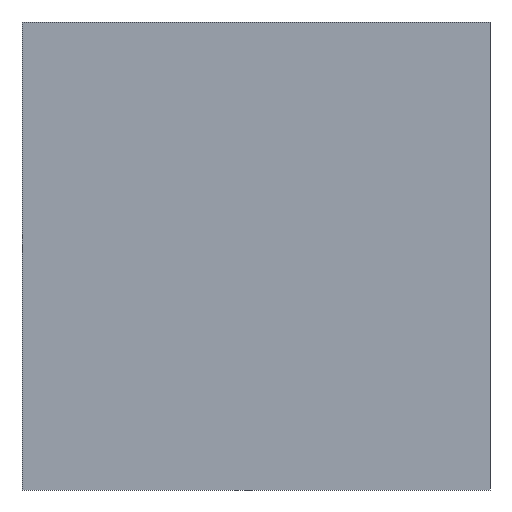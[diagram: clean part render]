
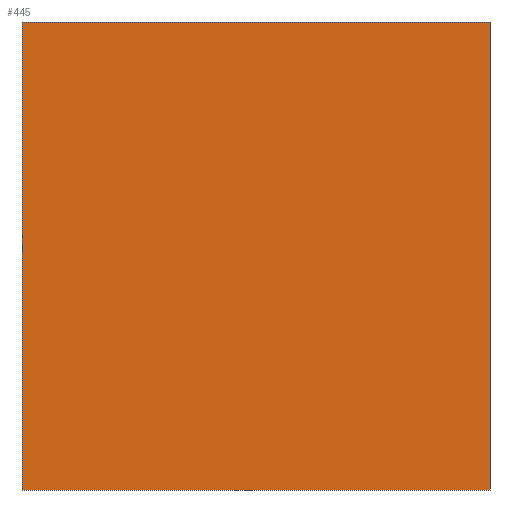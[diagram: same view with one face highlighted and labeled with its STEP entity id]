
A CAD part, front view. The second image highlights one B-rep face of the part: STEP entity #445.
In plain terms, the highlighted planar face has unit normal (0, -1, 0).
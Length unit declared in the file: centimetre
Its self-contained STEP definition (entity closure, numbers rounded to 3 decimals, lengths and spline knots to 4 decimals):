
#59 = LINE ( 'NONE', #256, #305 ) ;
#61 = VERTEX_POINT ( 'NONE', #610 ) ;
#82 = VERTEX_POINT ( 'NONE', #502 ) ;
#98 = CARTESIAN_POINT ( 'NONE',  ( 0., 0., 1000. ) ) ;
#126 = VECTOR ( 'NONE', #127, 100. ) ;
#127 = DIRECTION ( 'NONE',  ( 0., 0., -1. ) ) ;
#169 = CARTESIAN_POINT ( 'NONE',  ( 0., 0., 1000. ) ) ;
#173 = LINE ( 'NONE', #169, #126 ) ;
#199 = VERTEX_POINT ( 'NONE', #537 ) ;
#241 = DIRECTION ( 'NONE',  ( 1., 0., 0. ) ) ;
#256 = CARTESIAN_POINT ( 'NONE',  ( 0., 0., 0. ) ) ;
#284 = ORIENTED_EDGE ( 'NONE', *, *, #686, .T. ) ;
#291 = DIRECTION ( 'NONE',  ( 0., 0., 1. ) ) ;
#305 = VECTOR ( 'NONE', #536, 100. ) ;
#308 = EDGE_CURVE ( 'NONE', #82, #464, #556, .T. ) ;
#316 = ORIENTED_EDGE ( 'NONE', *, *, #612, .T. ) ;
#350 = CARTESIAN_POINT ( 'NONE',  ( 0., 0., 1000. ) ) ;
#362 = DIRECTION ( 'NONE',  ( 0., 1., 0. ) ) ;
#413 = EDGE_CURVE ( 'NONE', #61, #82, #579, .T. ) ;
#445 = ADVANCED_FACE ( 'NONE', ( #453 ), #572, .F. ) ;
#453 = FACE_OUTER_BOUND ( 'NONE', #527, .T. ) ;
#455 = ORIENTED_EDGE ( 'NONE', *, *, #413, .F. ) ;
#464 = VERTEX_POINT ( 'NONE', #516 ) ;
#499 = CARTESIAN_POINT ( 'NONE',  ( 1000., 0., 1000. ) ) ;
#502 = CARTESIAN_POINT ( 'NONE',  ( 1000., 0., 1000. ) ) ;
#516 = CARTESIAN_POINT ( 'NONE',  ( 1000., 0., 0. ) ) ;
#527 = EDGE_LOOP ( 'NONE', ( #316, #547, #455, #284 ) ) ;
#536 = DIRECTION ( 'NONE',  ( 1., 0., 0. ) ) ;
#537 = CARTESIAN_POINT ( 'NONE',  ( 0., 0., 0. ) ) ;
#544 = VECTOR ( 'NONE', #607, 100. ) ;
#547 = ORIENTED_EDGE ( 'NONE', *, *, #308, .F. ) ;
#556 = LINE ( 'NONE', #499, #544 ) ;
#572 = PLANE ( 'NONE',  #698 ) ;
#579 = LINE ( 'NONE', #98, #581 ) ;
#581 = VECTOR ( 'NONE', #241, 100. ) ;
#607 = DIRECTION ( 'NONE',  ( 0., 0., -1. ) ) ;
#610 = CARTESIAN_POINT ( 'NONE',  ( 0., 0., 1000. ) ) ;
#612 = EDGE_CURVE ( 'NONE', #199, #464, #59, .T. ) ;
#686 = EDGE_CURVE ( 'NONE', #61, #199, #173, .T. ) ;
#698 = AXIS2_PLACEMENT_3D ( 'NONE', #350, #362, #291 ) ;
